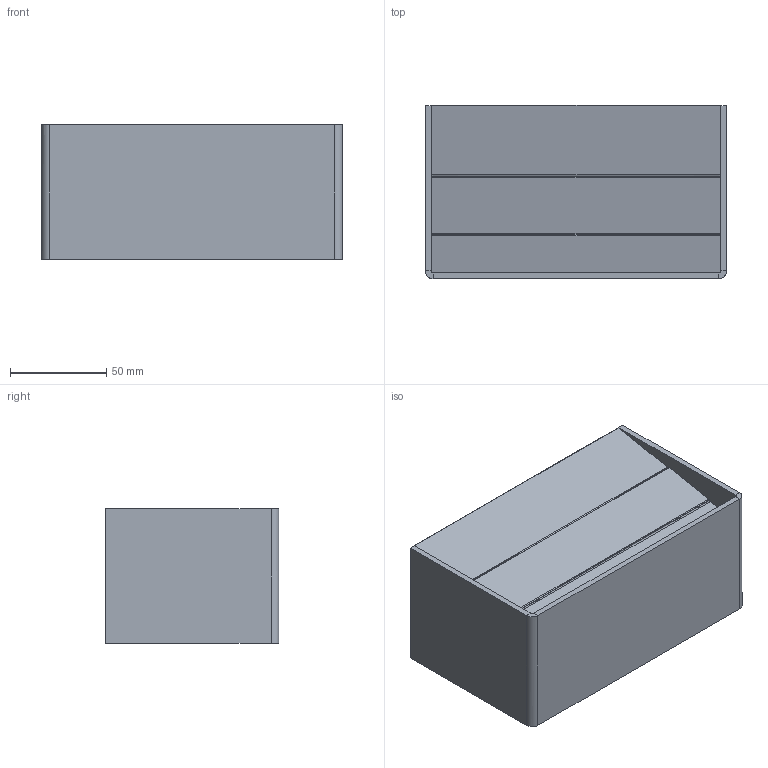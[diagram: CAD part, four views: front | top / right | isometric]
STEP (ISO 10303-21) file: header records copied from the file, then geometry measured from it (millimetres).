
FILE_DESCRIPTION(/* description */ (''),/* implementation_level */ '2;1');
FILE_NAME(/* name */ 'A-141_~1',/* time_stamp */ '2024-07-04T10:18:10+02:00',/* author */ (''),/* organization */ (''),/* preprocessor_version */ 'ST-DEVELOPER v16.5',/* originating_system */ '',/* authorisation */ '');
FILE_SCHEMA (('AUTOMOTIVE_DESIGN'));
Length unit declared in the file: millimetre
Products named in the file (1): Document
Bounding box: 156.5 x 90.24 x 70 mm (x, y, z)
Volume: 81327.5 mm3; surface area: 119698.9 mm2
Topology: 3 solids, 4 shells, 68 faces, 162 edges, 100 vertices
Faces by surface type: plane 40, bspline 28
Entity records: 2392 total; most frequent: CARTESIAN_POINT 1327, ORIENTED_EDGE 316, EDGE_CURVE 162, B_SPLINE_CURVE_WITH_KNOTS 118, VERTEX_POINT 100, EDGE_LOOP 70, ADVANCED_FACE 68, FACE_OUTER_BOUND 68
